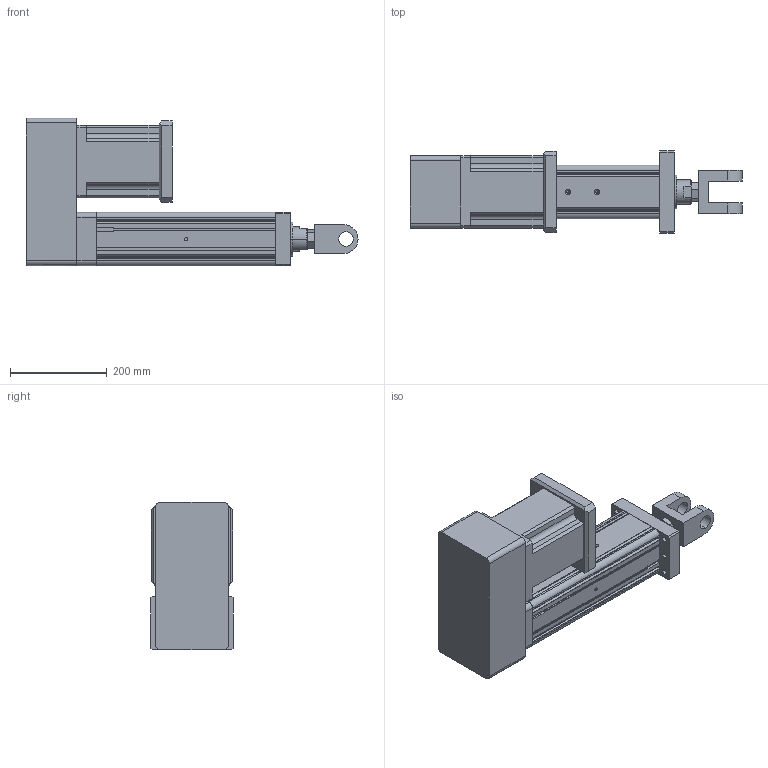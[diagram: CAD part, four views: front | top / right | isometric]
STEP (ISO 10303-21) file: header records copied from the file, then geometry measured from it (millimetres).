
FILE_DESCRIPTION (( 'STEP AP203' ), '1' );
FILE_NAME ('YRJ110-L200-H3K4.STEP', '2020-01-04T06:40:40', ( 'User' ), ( 'China' ), 'SwSTEP 2.0', 'SolidWorks 2016', '' );
FILE_SCHEMA (( 'CONFIG_CONTROL_DESIGN' ));
Length unit declared in the file: millimetre
Products named in the file (7): YRJ110-L200-H3K4; 095-100俴最倰第; 萇儂碟-110; 142熬厒儂; H3-110-1; H3-110-2; K4-110
Assembly tree (6 placements, depth 2):
  YRJ110-L200-H3K4
    095-100俴最倰第
    萇儂碟-110
    142熬厒儂
    H3-110-1
    H3-110-2
    K4-110
Bounding box: 686 x 170 x 305.5 mm (x, y, z)
Volume: 11752134.1 mm3; surface area: 863916.2 mm2
Topology: 6 solids, 6 shells, 326 faces, 904 edges, 585 vertices
Faces by surface type: plane 179, cylinder 120, cone 27
Entity records: 11416 total; most frequent: CARTESIAN_POINT 2148, DIRECTION 1791, ORIENTED_EDGE 1776, EDGE_CURVE 888, VECTOR 611, LINE 611, AXIS2_PLACEMENT_3D 590, VERTEX_POINT 585
